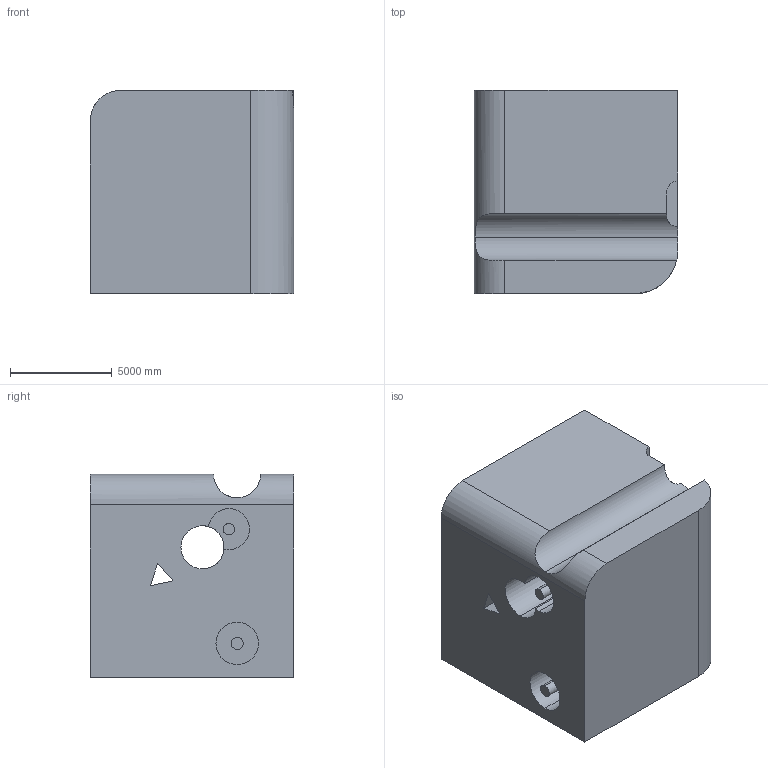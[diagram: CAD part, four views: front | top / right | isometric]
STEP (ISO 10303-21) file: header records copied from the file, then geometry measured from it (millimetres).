
FILE_DESCRIPTION (( 'STEP AP203' ), '1' );
FILE_NAME ('375.STEP', '2022-09-07T13:19:14', ( 'user' ), ( '' ), 'SwSTEP 2.0', 'SolidWorks 2021', '' );
FILE_SCHEMA (( 'CONFIG_CONTROL_DESIGN' ));
Length unit declared in the file: centimetre
Products named in the file (1): 375
Bounding box: 10000 x 10000 x 10000 mm (x, y, z)
Volume: 886801104592.8 mm3; surface area: 770526870.5 mm2
Topology: 1 solids, 1 shells, 40 faces, 102 edges, 68 vertices
Faces by surface type: plane 23, cylinder 17
Entity records: 1609 total; most frequent: CARTESIAN_POINT 523, DIRECTION 214, ORIENTED_EDGE 204, EDGE_CURVE 102, AXIS2_PLACEMENT_3D 75, VERTEX_POINT 68, VECTOR 64, LINE 64
